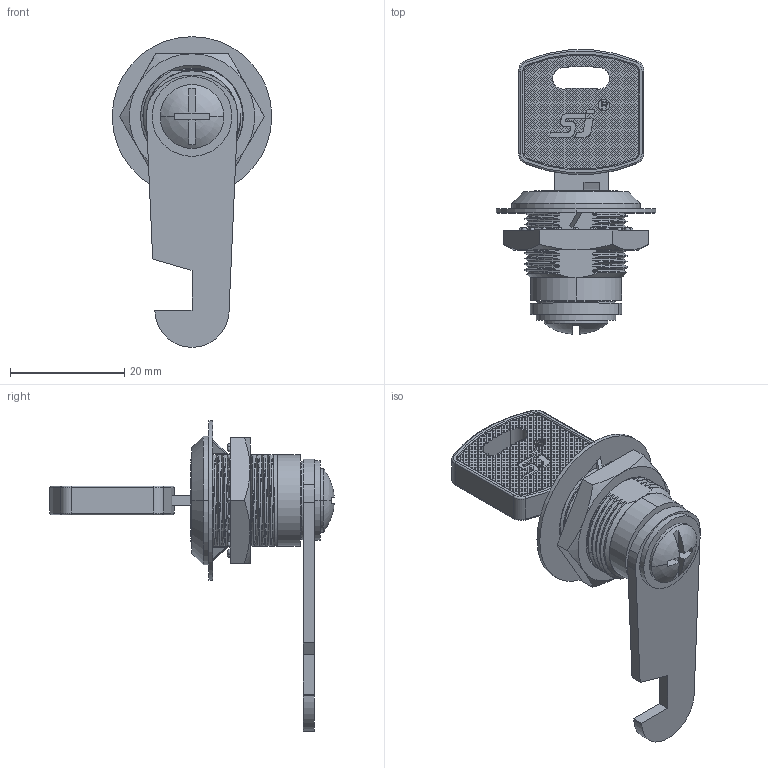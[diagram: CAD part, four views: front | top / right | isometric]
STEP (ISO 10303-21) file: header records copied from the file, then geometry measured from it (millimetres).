
FILE_DESCRIPTION((''),'2;1');
FILE_NAME('MS729-3_ASM','2016-07-06T',('master'),(''),'PRO/ENGINEER BY PARAMETRIC TECHNOLOGY CORPORATION, 2009060','PRO/ENGINEER BY PARAMETRIC TECHNOLOGY CORPORATION, 2009060','');
FILE_SCHEMA(('CONFIG_CONTROL_DESIGN'));
Length unit declared in the file: millimetre
Products named in the file (22): HOUSING-H16; INSERT-16; YAOSHIBING-304; K05; K05_ASM; LEAF-52; LEAF-32; LEAF-41N; LEAF-31N; PRT0002; SPRING_1_AF0; GAI; TANHUANG_AF0; TANHUANG_AF1; INSERT-ASSEMBLY-16_ASM; CAM; WASHER-D5; SCREW-5X5; FIXATION-PART; WASHER-111; NUT18X1; MS729-3_ASM
Assembly tree (25 placements, depth 4):
  MS729-3_ASM
    HOUSING-H16
    INSERT-ASSEMBLY-16_ASM
      INSERT-16
      K05_ASM
        YAOSHIBING-304
        K05
      LEAF-52
      LEAF-32
      LEAF-41N  x2
      LEAF-31N
      PRT0002
      SPRING_1_AF0
      GAI
      TANHUANG_AF0  x3
      TANHUANG_AF1  x2
    CAM
    WASHER-D5
    SCREW-5X5
    FIXATION-PART
    WASHER-111
    NUT18X1
Bounding box: 28 x 49.88 x 54.5 mm (x, y, z)
Volume: 10613.7 mm3; surface area: 11946.2 mm2
Topology: 23 solids, 23 shells, 6408 faces, 16198 edges, 10728 vertices
Faces by surface type: plane 5939, cylinder 223, bspline 152, sphere 45, torus 33, cone 16
Entity records: 219224 total; most frequent: CARTESIAN_POINT 65903, ORIENTED_EDGE 31956, DIRECTION 29183, EDGE_CURVE 15978, VECTOR 14735, LINE 14735, VERTEX_POINT 10622, EDGE_LOOP 7294
